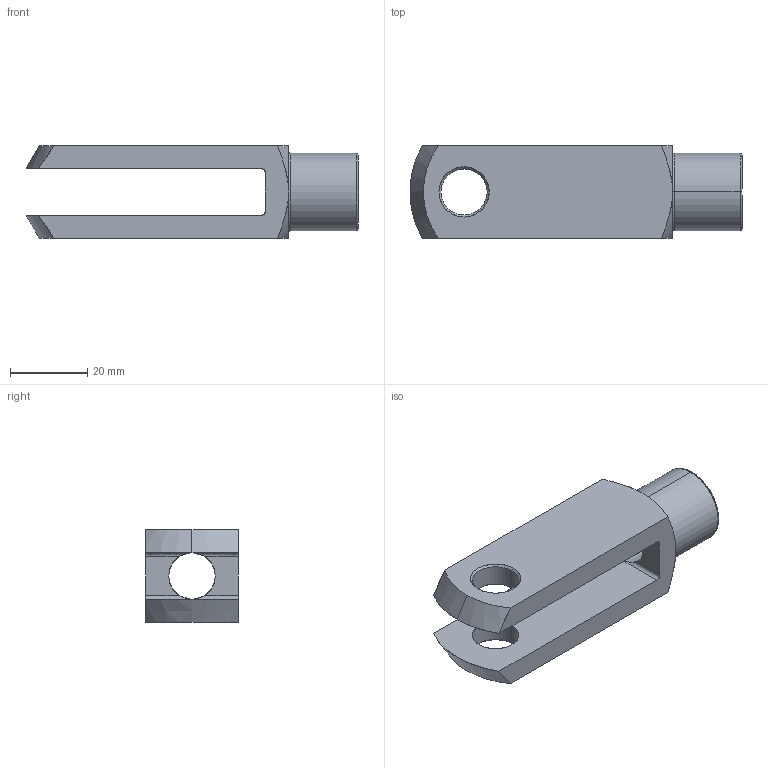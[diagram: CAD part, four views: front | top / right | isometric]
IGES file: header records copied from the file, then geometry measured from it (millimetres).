
Start section: SolidWorks IGES file using analytic representation for surfaces
Global section: file name: C:\Documents and Settings\IANO\My Documents\Wix and Auto CAD Work\CAD Models\Parametric Models\Wix Models\60000\65635_v2\65635_v2_IGES\65635.W0125.igs; native system: SolidWorks 2009; preprocessor: SolidWorks 2009; author: IANO; date: 140117.130629; units: millimetre
Bounding box: 86 x 24 x 24 mm (x, y, z)
Surface area: 10481.9 mm2 (no closed solid volume)
Topology: 0 solids, 0 shells, 39 faces, 612 edges, 612 vertices
Faces by surface type: revolution 25, bspline 14
